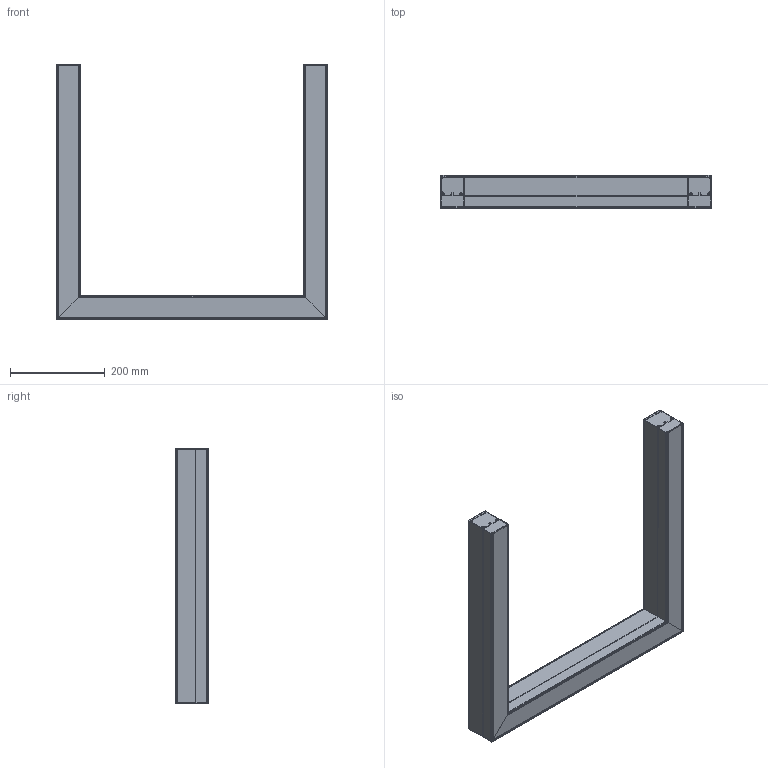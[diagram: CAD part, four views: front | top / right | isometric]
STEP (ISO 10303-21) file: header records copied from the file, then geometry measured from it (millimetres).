
FILE_DESCRIPTION(('STEP AP203'), '1');
FILE_NAME('Ìèêêî Êëàìï 30Âò', '', ('UNSPECIFIED'), ('UNSPECIFIED'), 'ASCON STEP Converter 1.6', 'ASCON Math Kernel', '');
FILE_SCHEMA(('CONFIG_CONTROL_DESIGN'));
Length unit declared in the file: millimetre
Products named in the file (6): -01
Assembly tree (7 placements, depth 3):
  (unnamed)
    (unnamed)
      (unnamed)  x2
    (unnamed)
    -01
      (unnamed)  x2
Bounding box: 571 x 70 x 537.15 mm (x, y, z)
Volume: 676884.7 mm3; surface area: 1043263.1 mm2
Topology: 13 solids, 13 shells, 732 faces, 2089 edges, 1396 vertices
Faces by surface type: cylinder 366, plane 328, bspline 16, cone 12, torus 10
Full cylindrical faces by diameter (mm): 2.9 x4, 6.3 x4, 8 x1, 10 x2, 14 x2
Entity records: 23137 total; most frequent: CARTESIAN_POINT 5718, ORIENTED_EDGE 3888, DIRECTION 3150, EDGE_CURVE 1944, VERTEX_POINT 1306, LINE 1178, VECTOR 1178, AXIS2_PLACEMENT_3D 986
